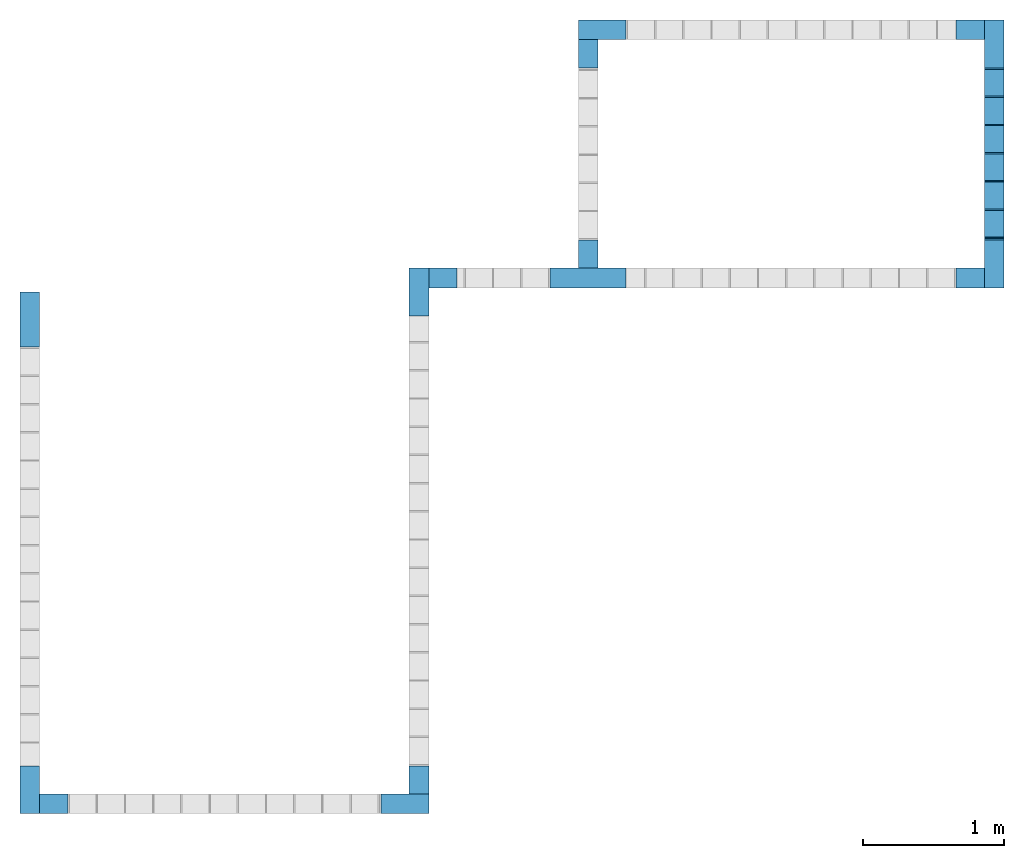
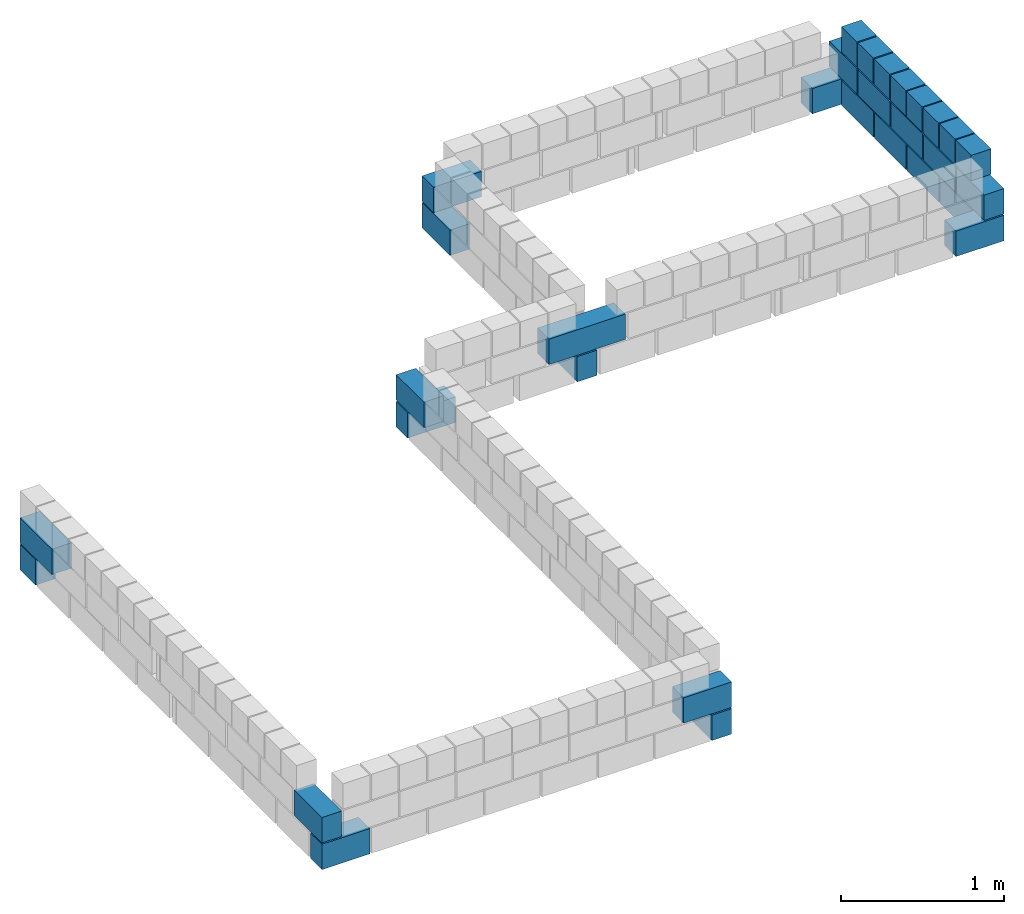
# One storey, part 2 of 2: 9 walls.
"""IFC4 building model written with IfcOpenShell, lengths in centimetres."""

from ifc_helpers import new_model, si_unit, derived_unit, frame, origin, origin_with_axes, origin_2d_with_axis, place, context, project, spatial, rectangle, extrude, element, save


model = new_model("IFC4")

# Units and contexts
model_context = context("Model", 3, precision=1e-05, world=origin_with_axes(), identifier="Body")
ifc_project = project(units=[si_unit("LENGTHUNIT", "METRE", prefix="CENTI"), si_unit("VOLUMEUNIT", "CUBIC_METRE"), si_unit("AREAUNIT", "SQUARE_METRE"), si_unit("POWERUNIT", "WATT"), si_unit("LUMINOUSFLUXUNIT", "LUMEN"), si_unit("ELECTRICCURRENTUNIT", "AMPERE"), si_unit("PRESSUREUNIT", "PASCAL", prefix="KILO"), si_unit("MASSUNIT", "GRAM", prefix="KILO"), si_unit("PLANEANGLEUNIT", "RADIAN"), derived_unit("VOLUMETRICFLOWRATEUNIT", [(si_unit("LENGTHUNIT", "METRE"), 3), (si_unit("TIMEUNIT", "SECOND"), -1)])], contexts=[model_context])

# Site, building, storey
site_placement = place(None, origin_with_axes())
site = spatial("IfcSite", under=ifc_project, at=site_placement)
building_placement = place(site_placement, origin())
building = spatial("IfcBuilding", under=site, at=building_placement)
placement_1 = place(building_placement, origin_with_axes())
placement_2 = place(placement_1, frame((0.0, 0.0, 272.0), z_axis=(0.0, 0.0, 1.0), x_axis=(1.0, 0.0, 0.0)))
storey_placement = place(placement_2, frame((0.0, 0.0, 100.0), z_axis=(0.0, 0.0, 1.0), x_axis=(1.0, 0.0, 0.0)))
storey = spatial("IfcBuildingStorey", under=building, at=storey_placement, Name="RESP1", CompositionType="ELEMENT", Elevation=372.0)

# Walls
wall_1_placement = place(storey_placement, frame((18.0, 18.0, 39.0), z_axis=(0.0, 0.0, 1.0), x_axis=(1.0, 0.0, 0.0)))
element("IfcWall", 1, at=wall_1_placement, inside=storey, context=model_context, shape_type="SolidModel", body=[
    extrude(rectangle(XDim=34.0, YDim=14.0, at=origin_2d_with_axis()), frame((0.0, -10.0, -39.0), z_axis=(0.0, 0.0, 1.0), x_axis=(1.0, 0.0, 0.0)), (0.0, 0.0, 1.0), 19.0),
    extrude(rectangle(XDim=34.0, YDim=14.0, at=origin_2d_with_axis()), frame((-10.0, 0.0, -19.0), z_axis=(0.0, 0.0, 1.0), x_axis=(0.0, 1.0, 0.0)), (0.0, 0.0, 1.0), 19.0),
])
wall_2_placement = place(storey_placement, frame((8.0, 351.51, 39.0), z_axis=(0.0, 0.0, 1.0), x_axis=(1.0, 0.0, 0.0)))
element("IfcWall", 2, at=wall_2_placement, inside=storey, context=model_context, shape_type="SolidModel", body=[
    extrude(rectangle(XDim=19.0, YDim=14.0, at=origin_2d_with_axis()), frame((0.0, 10.0, -39.0), z_axis=(0.0, 0.0, 1.0), x_axis=(0.0, -1.0, 0.0)), (0.0, 0.0, 1.0), 19.0),
    extrude(rectangle(XDim=39.0, YDim=14.0, at=origin_2d_with_axis()), frame((0.0, 0.0, -19.0), z_axis=(0.0, 0.0, 1.0), x_axis=(0.0, -1.0, 0.0)), (0.0, 0.0, 1.0), 19.0),
])
wall_3_placement = place(storey_placement, frame((274.0, 18.0, 39.0), z_axis=(0.0, 0.0, 1.0), x_axis=(1.0, 0.0, 0.0)))
element("IfcWall", 3, at=wall_3_placement, inside=storey, context=model_context, shape_type="SolidModel", body=[
    extrude(rectangle(XDim=34.0, YDim=14.0, at=origin_2d_with_axis()), frame((10.0, 0.0, -39.0), z_axis=(0.0, 0.0, 1.0), x_axis=(0.0, 1.0, 0.0)), (0.0, 0.0, 1.0), 19.0),
    extrude(rectangle(XDim=34.0, YDim=14.0, at=origin_2d_with_axis()), frame((0.0, -10.0, -19.0), z_axis=(0.0, 0.0, 1.0), x_axis=(-1.0, 0.0, 0.0)), (0.0, 0.0, 1.0), 19.0),
])
wall_4_placement = place(storey_placement, frame((682.01, 391.01, 39.0), z_axis=(0.0, 0.0, 1.0), x_axis=(1.0, 0.0, 0.0)))
element("IfcWall", 4, at=wall_4_placement, inside=storey, context=model_context, shape_type="SolidModel", body=[
    extrude(rectangle(XDim=34.0, YDim=14.0, at=origin_2d_with_axis()), frame((0.0, -10.0, -39.0), z_axis=(0.0, 0.0, 1.0), x_axis=(-1.0, 0.0, 0.0)), (0.0, 0.0, 1.0), 19.0),
    extrude(rectangle(XDim=34.0, YDim=14.0, at=origin_2d_with_axis()), frame((10.0, 0.0, -19.0), z_axis=(0.0, 0.0, 1.0), x_axis=(0.0, 1.0, 0.0)), (0.0, 0.0, 1.0), 19.0),
])
wall_5_placement = place(storey_placement, frame((294.0, 371.01, 39.0), z_axis=(0.0, 0.0, 1.0), x_axis=(1.0, 0.0, 0.0)))
element("IfcWall", 5, at=wall_5_placement, inside=storey, context=model_context, shape_type="SolidModel", body=[
    extrude(rectangle(XDim=34.0, YDim=14.0, at=origin_2d_with_axis()), frame((0.0, 10.0, -39.0), z_axis=(0.0, 0.0, 1.0), x_axis=(1.0, 0.0, 0.0)), (0.0, 0.0, 1.0), 19.0),
    extrude(rectangle(XDim=34.0, YDim=14.0, at=origin_2d_with_axis()), frame((-10.0, 0.0, -19.0), z_axis=(0.0, 0.0, 1.0), x_axis=(0.0, -1.0, 0.0)), (0.0, 0.0, 1.0), 19.0),
])
wall_6_placement = place(storey_placement, frame((682.01, 547.01, 39.0), z_axis=(0.0, 0.0, 1.0), x_axis=(1.0, 0.0, 0.0)))
element("IfcWall", 6, at=wall_6_placement, inside=storey, context=model_context, shape_type="SolidModel", body=[
    extrude(rectangle(XDim=34.0, YDim=14.0, at=origin_2d_with_axis()), frame((0.0, 10.0, -39.0), z_axis=(0.0, 0.0, 1.0), x_axis=(-1.0, 0.0, 0.0)), (0.0, 0.0, 1.0), 19.0),
    extrude(rectangle(XDim=34.0, YDim=14.0, at=origin_2d_with_axis()), frame((10.0, 0.0, -19.0), z_axis=(0.0, 0.0, 1.0), x_axis=(0.0, -1.0, 0.0)), (0.0, 0.0, 1.0), 19.0),
])
wall_7_placement = place(storey_placement, frame((404.01, 391.01, 39.0), z_axis=(0.0, 0.0, 1.0), x_axis=(1.0, 0.0, 0.0)))
element("IfcWall", 7, at=wall_7_placement, inside=storey, context=model_context, shape_type="SolidModel", body=[
    extrude(rectangle(XDim=34.0, YDim=14.0, at=origin_2d_with_axis()), frame((0.0, 0.0, -39.0), z_axis=(0.0, 0.0, 1.0), x_axis=(0.0, 1.0, 0.0)), (0.0, 0.0, 1.0), 19.0),
    extrude(rectangle(XDim=54.0, YDim=14.0, at=origin_2d_with_axis()), frame((0.0, -10.0, -19.0), z_axis=(0.0, 0.0, 1.0), x_axis=(-1.0, 0.0, 0.0)), (0.0, 0.0, 1.0), 19.0),
])
wall_8_placement = place(storey_placement, frame((414.01, 547.01, 39.0), z_axis=(0.0, 0.0, 1.0), x_axis=(1.0, 0.0, 0.0)))
element("IfcWall", 8, at=wall_8_placement, inside=storey, context=model_context, shape_type="SolidModel", body=[
    extrude(rectangle(XDim=34.0, YDim=14.0, at=origin_2d_with_axis()), frame((-10.0, 0.0, -39.0), z_axis=(0.0, 0.0, 1.0), x_axis=(0.0, -1.0, 0.0)), (0.0, 0.0, 1.0), 19.0),
    extrude(rectangle(XDim=34.0, YDim=14.0, at=origin_2d_with_axis()), frame((0.0, 10.0, -19.0), z_axis=(0.0, 0.0, 1.0), x_axis=(1.0, 0.0, 0.0)), (0.0, 0.0, 1.0), 19.0),
])
wall_9_placement = place(storey_placement, frame((692.01, 469.11, 59.0), z_axis=(0.0, 0.0, 1.0), x_axis=(1.0, 0.0, 0.0)))
element("IfcWall", 9, at=wall_9_placement, inside=storey, Name="PAR-RESP1-7", context=model_context, shape_type="SolidModel", body=[
    extrude(rectangle(XDim=39.0, YDim=14.0, at=origin_2d_with_axis()), frame((0.0, 60.2, -59.0), z_axis=(0.0, 0.0, 1.0), x_axis=(0.0, -1.0, 0.0)), (0.0, 0.0, 1.0), 19.0),
    extrude(rectangle(XDim=39.0, YDim=14.0, at=origin_2d_with_axis()), frame((0.0, 20.0, -59.0), z_axis=(0.0, 0.0, 1.0), x_axis=(0.0, -1.0, 0.0)), (0.0, 0.0, 1.0), 19.0),
    extrude(rectangle(XDim=39.0, YDim=14.0, at=origin_2d_with_axis()), frame((0.0, -20.2, -59.0), z_axis=(0.0, 0.0, 1.0), x_axis=(0.0, -1.0, 0.0)), (0.0, 0.0, 1.0), 19.0),
    extrude(rectangle(XDim=39.0, YDim=14.0, at=origin_2d_with_axis()), frame((0.0, -60.4, -59.0), z_axis=(0.0, 0.0, 1.0), x_axis=(0.0, -1.0, 0.0)), (0.0, 0.0, 1.0), 19.0),
    extrude(rectangle(XDim=39.0, YDim=14.0, at=origin_2d_with_axis()), frame((0.0, 40.15, -39.0), z_axis=(0.0, 0.0, 1.0), x_axis=(0.0, -1.0, 0.0)), (0.0, 0.0, 1.0), 19.0),
    extrude(rectangle(XDim=39.0, YDim=14.0, at=origin_2d_with_axis()), frame((0.0, -0.1, -39.0), z_axis=(0.0, 0.0, 1.0), x_axis=(0.0, -1.0, 0.0)), (0.0, 0.0, 1.0), 19.0),
    extrude(rectangle(XDim=39.0, YDim=14.0, at=origin_2d_with_axis()), frame((0.0, -40.35, -39.0), z_axis=(0.0, 0.0, 1.0), x_axis=(0.0, -1.0, 0.0)), (0.0, 0.0, 1.0), 19.0),
    extrude(rectangle(XDim=19.0, YDim=14.0, at=origin_2d_with_axis()), frame((0.0, 70.4, -19.0), z_axis=(0.0, 0.0, 1.0), x_axis=(0.0, -1.0, 0.0)), (0.0, 0.0, 1.0), 19.0),
    extrude(rectangle(XDim=19.0, YDim=14.0, at=origin_2d_with_axis()), frame((0.0, 50.4, -19.0), z_axis=(0.0, 0.0, 1.0), x_axis=(0.0, -1.0, 0.0)), (0.0, 0.0, 1.0), 19.0),
    extrude(rectangle(XDim=19.0, YDim=14.0, at=origin_2d_with_axis()), frame((0.0, 30.4, -19.0), z_axis=(0.0, 0.0, 1.0), x_axis=(0.0, -1.0, 0.0)), (0.0, 0.0, 1.0), 19.0),
    extrude(rectangle(XDim=19.0, YDim=14.0, at=origin_2d_with_axis()), frame((0.0, 10.4, -19.0), z_axis=(0.0, 0.0, 1.0), x_axis=(0.0, -1.0, 0.0)), (0.0, 0.0, 1.0), 19.0),
    extrude(rectangle(XDim=19.0, YDim=14.0, at=origin_2d_with_axis()), frame((0.0, -9.6, -19.0), z_axis=(0.0, 0.0, 1.0), x_axis=(0.0, -1.0, 0.0)), (0.0, 0.0, 1.0), 19.0),
    extrude(rectangle(XDim=19.0, YDim=14.0, at=origin_2d_with_axis()), frame((0.0, -29.6, -19.0), z_axis=(0.0, 0.0, 1.0), x_axis=(0.0, -1.0, 0.0)), (0.0, 0.0, 1.0), 19.0),
    extrude(rectangle(XDim=19.0, YDim=14.0, at=origin_2d_with_axis()), frame((0.0, -49.6, -19.0), z_axis=(0.0, 0.0, 1.0), x_axis=(0.0, -1.0, 0.0)), (0.0, 0.0, 1.0), 19.0),
    extrude(rectangle(XDim=19.0, YDim=14.0, at=origin_2d_with_axis()), frame((0.0, -69.6, -19.0), z_axis=(0.0, 0.0, 1.0), x_axis=(0.0, -1.0, 0.0)), (0.0, 0.0, 1.0), 19.0),
])

save(model, "model.ifc")
